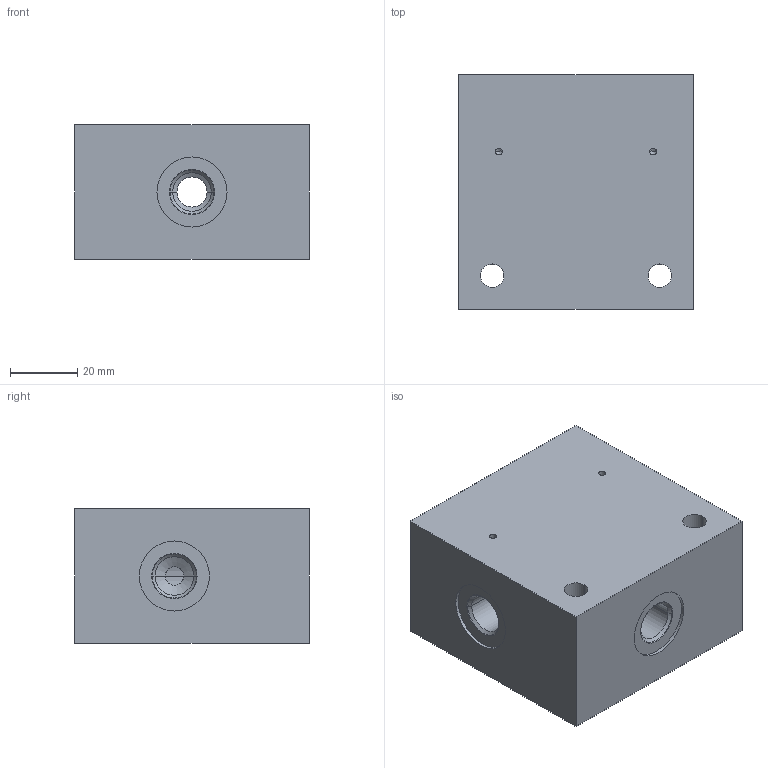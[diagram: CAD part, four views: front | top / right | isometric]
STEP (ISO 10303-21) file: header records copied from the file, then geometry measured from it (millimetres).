
FILE_DESCRIPTION((''),'2;1');
FILE_NAME('24365901','2023-10-11T',('l.soukupova'),(''),'PRO/ENGINEER BY PARAMETRIC TECHNOLOGY CORPORATION, 2015440','PRO/ENGINEER BY PARAMETRIC TECHNOLOGY CORPORATION, 2015440','');
FILE_SCHEMA(('AUTOMOTIVE_DESIGN { 1 0 10303 214 1 1 1 1 }'));
Length unit declared in the file: millimetre
Products named in the file (1): 24365901
Bounding box: 70 x 70 x 40 mm (x, y, z)
Volume: 175841.7 mm3; surface area: 29329.1 mm2
Topology: 1 solids, 5 shells, 82 faces, 268 edges, 218 vertices
Faces by surface type: cylinder 42, cone 26, plane 14
Entity records: 3954 total; most frequent: CARTESIAN_POINT 643, DIRECTION 536, ORIENTED_EDGE 352, PRESENTATION_STYLE_ASSIGNMENT 288, STYLED_ITEM 288, CURVE_STYLE 283, AXIS2_PLACEMENT_3D 189, EDGE_CURVE 184
